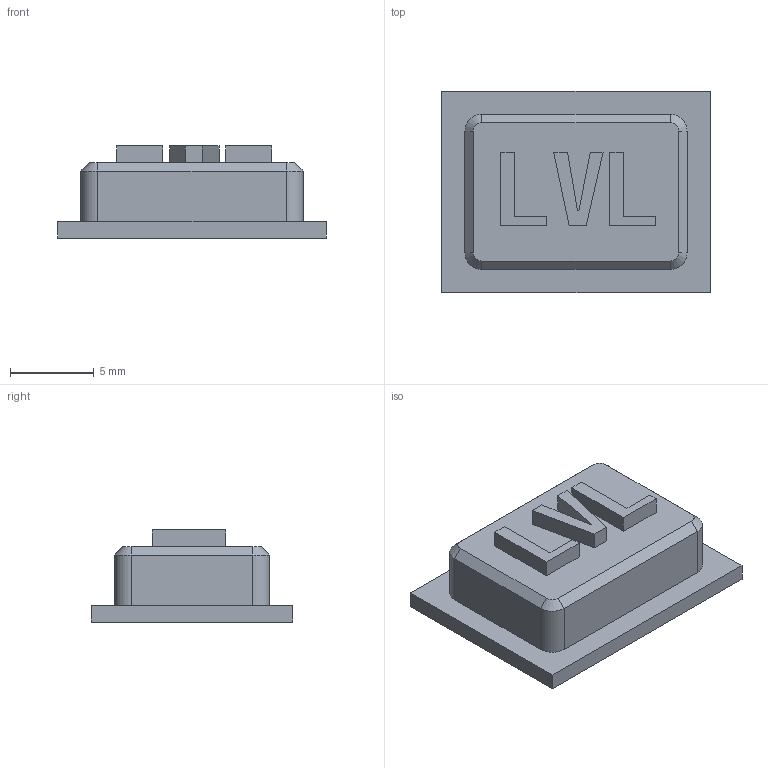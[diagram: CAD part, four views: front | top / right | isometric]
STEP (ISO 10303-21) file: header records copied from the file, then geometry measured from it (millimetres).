
FILE_DESCRIPTION(('FreeCAD Model'),'2;1');
FILE_NAME('E:/CAD Designs/Garmin/Final/CAD files/STEP/LVL.step', '2021-02-27T12:59:16',('Author'),(''), 'Open CASCADE STEP processor 7.3','FreeCAD','Unknown');
FILE_SCHEMA(('AUTOMOTIVE_DESIGN { 1 0 10303 214 1 1 1 1 }'));
Length unit declared in the file: millimetre
Products named in the file (2): Body; Extrude
Bounding box: 16 x 12 x 5.5 mm (x, y, z)
Volume: 628.2 mm3; surface area: 656.8 mm2
Topology: 4 solids, 4 shells, 49 faces, 112 edges, 72 vertices
Faces by surface type: plane 41, cylinder 4, cone 4
Entity records: 2866 total; most frequent: CARTESIAN_POINT 464, DIRECTION 447, LINE 316, VECTOR 316, ORIENTED_EDGE 224, PCURVE 224, DEFINITIONAL_REPRESENTATION 224, EDGE_CURVE 112
